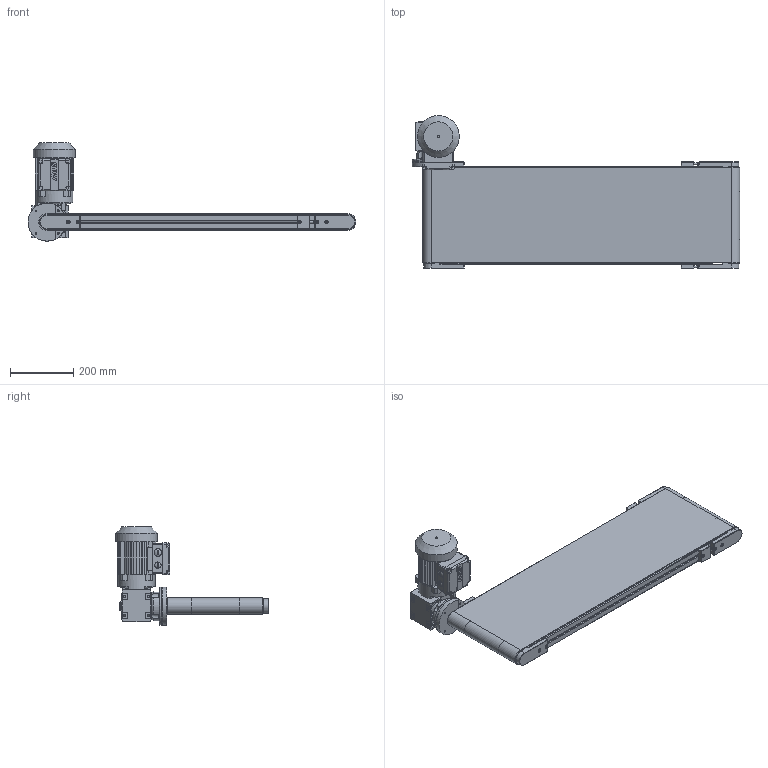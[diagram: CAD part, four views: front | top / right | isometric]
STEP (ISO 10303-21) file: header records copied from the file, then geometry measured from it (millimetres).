
FILE_DESCRIPTION (( 'STEP AP214' ), '1' );
FILE_NAME ('TB52 300X1000 DROIT A GAUCHE SEW.STEP', '2022-10-10T13:40:12', ( '' ), ( '' ), 'SwSTEP 2.0', 'SolidWorks 2022', '' );
FILE_SCHEMA (( 'AUTOMOTIVE_DESIGN' ));
Length unit declared in the file: millimetre
Products named in the file (16): 983-002; WAF20DR63M4 à gauche BAB DESSOUS; 982-008; 982-002-SEW; CHASSIS TB52_Défaut<Brut d''usinage>; TH_910-167; 983-001; TB52 300X1000 DROIT A GAUCHE SEW; 982-003; 910-010; 983-000-SEW GAUCHE; CLAVETTE_910-212-50; 982-000; 982-001B_982-001B-300; 982-016-SEW; CHC THE_910-065H
Assembly tree (31 placements, depth 3):
  TB52 300X1000 DROIT A GAUCHE SEW
    CHASSIS TB52_Défaut<Brut d''usinage>
    983-002  x2
      982-008
      TH_910-167
      CHC THE_910-065H
      910-010
    982-001B_982-001B-300  x2
    983-001  x3
      982-000
      982-003
      CHC THE_910-065H
      910-010
    983-000-SEW GAUCHE
      982-016-SEW
      982-002-SEW
      CHC THE_910-065H  x2
      910-010  x2
      CLAVETTE_910-212-50
      TH_910-167  x4
      WAF20DR63M4 à gauche BAB DESSOUS
Bounding box: 1034 x 482 x 309.5 mm (x, y, z)
Volume: 9765274.4 mm3; surface area: 3301967.5 mm2
Topology: 56 solids, 56 shells, 1752 faces, 4364 edges, 2857 vertices
Faces by surface type: plane 1181, cylinder 341, cone 177, torus 51, sphere 2
Full cylindrical faces by diameter (mm): 5 x17, 5.98 x10, 6 x25, 6.5 x10, 6.6 x12, 7.3 x6, 8 x7, 10 x10, 11 x10, 15 x6, 20 x2, 21 x6, 24 x4, 25 x1, 29 x6, 30 x5, 31 x3, 35 x9, 36 x1, 44 x1, 49 x2, 80 x2, 100 x1, 117 x1, 120 x1, 132 x1
Entity records: 37106 total; most frequent: CARTESIAN_POINT 6805, DIRECTION 5915, ORIENTED_EDGE 5896, EDGE_CURVE 2948, VECTOR 2263, LINE 2263, VERTEX_POINT 2019, AXIS2_PLACEMENT_3D 1826
